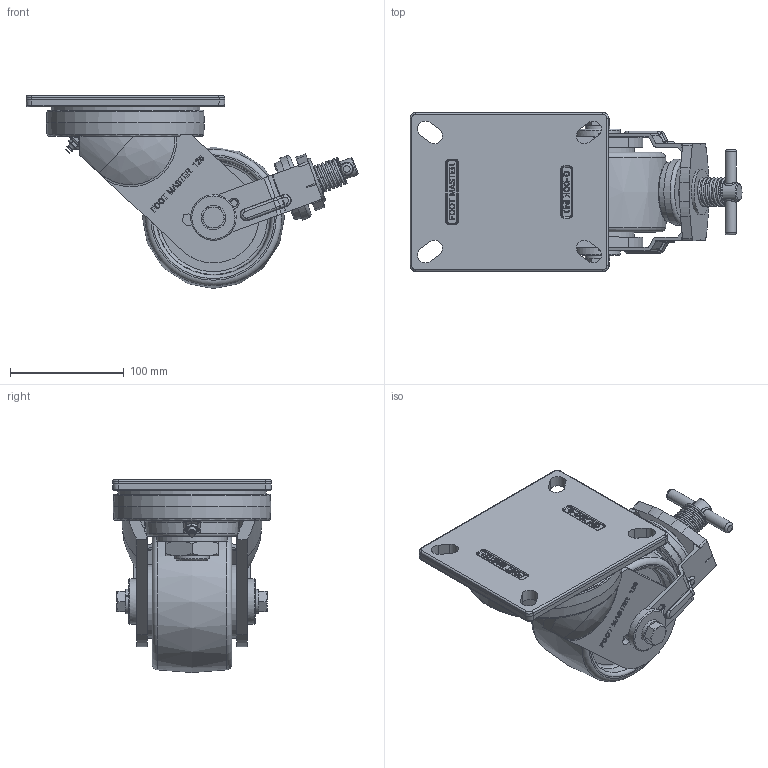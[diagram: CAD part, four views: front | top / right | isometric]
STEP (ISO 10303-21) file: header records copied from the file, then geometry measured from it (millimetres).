
FILE_DESCRIPTION(/* description */ (''),/* implementation_level */ '2;1');
FILE_NAME(/* name */ 'Y:\1.기술연구소\2.연구개발 진행중\133.고하중캐스터 브레이크 타입 변경건_2025.11.03\1.도면\4.홈페이지용 도면\01. 3D\GXT-125 SERIES\GXT-125-STEP\GXT-125-BSF-NYD.stp',/* time_stamp */ '2026-07-22T10:49:09+09:00',/* author */ ('장용하'),/* organization */ (''),/* preprocessor_version */ 'ST-DEVELOPER v18.1',/* originating_system */ 'Autodesk Inventor 2021',/* authorisation */ '');
FILE_SCHEMA (('CONFIG_CONTROL_DESIGN'));
Products named in the file (1): GXT-125-BSF-NYD
Bounding box: 292.28 x 140 x 170 mm (x, y, z)
Volume: 1828758.1 mm3; surface area: 214543.6 mm2
Topology: 1 solids, 1 shells, 2027 faces, 5464 edges, 3583 vertices
Faces by surface type: plane 978, bspline 741, cylinder 199, torus 61, cone 44, sphere 4
Full cylindrical faces by diameter (mm): 10 x2, 12 x2, 13 x2, 16 x1, 20 x1, 30 x1, 31.606 x1, 37.448 x2, 40 x3, 54 x2, 58 x1, 62.5 x1, 65 x2, 131.086 x1
Entity records: 68682 total; most frequent: CARTESIAN_POINT 22382, ORIENTED_EDGE 10928, DIRECTION 7237, EDGE_CURVE 5464, VERTEX_POINT 3585, LINE 3185, VECTOR 3185, EDGE_LOOP 2201
